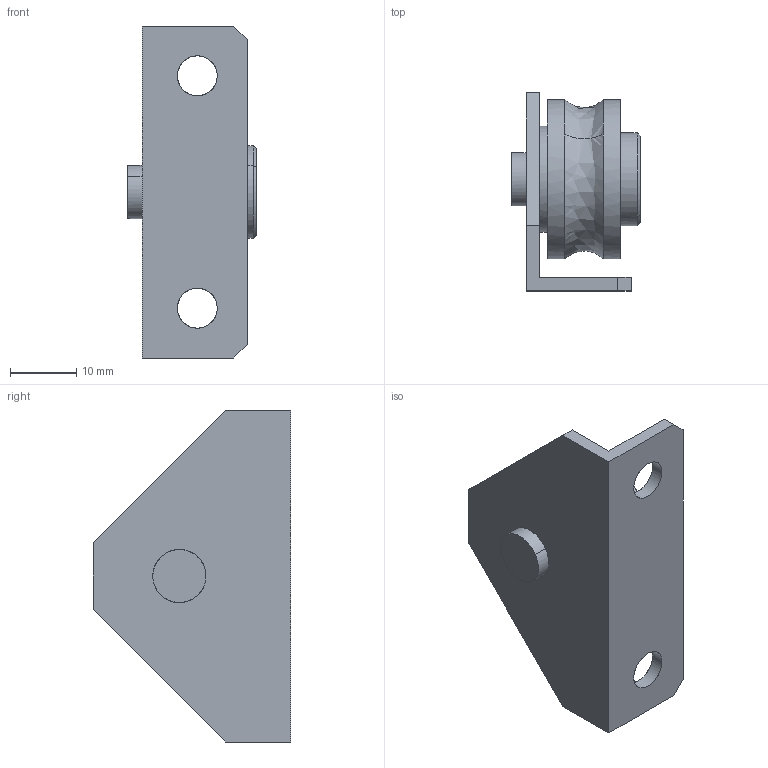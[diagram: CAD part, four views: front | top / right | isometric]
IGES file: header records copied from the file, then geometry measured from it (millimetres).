
Global section: file name: No Iges File Name specified; native system: AutoDesk Inventor R11.0; preprocessor: AutoDesk Inventor Iges Exporter R11.0; author: No Author specified; organization: No Organization specified; date: 20190426.192244; units: millimetre
Bounding box: 19.4 x 29.8 x 50 mm (x, y, z)
Surface area: 5824.2 mm2 (no closed solid volume)
Topology: 0 solids, 0 shells, 37 faces, 244 edges, 244 vertices
Faces by surface type: bspline 37
